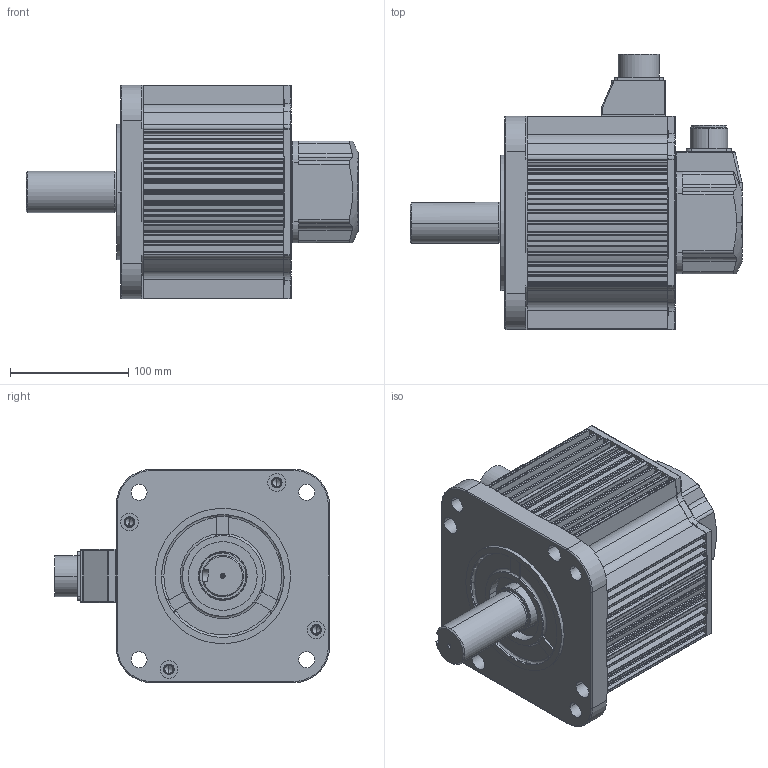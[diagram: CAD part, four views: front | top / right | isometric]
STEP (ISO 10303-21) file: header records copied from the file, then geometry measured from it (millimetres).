
FILE_DESCRIPTION (( 'STEP AP203' ), '1' );
FILE_NAME ('KANH-20B(NB).STEP', '2026-09-12T02:56:31', ( '' ), ( '' ), 'SwSTEP 2.0', 'SolidWorks 2023', '' );
FILE_SCHEMA (( 'CONFIG_CONTROL_DESIGN' ));
Length unit declared in the file: millimetre
Products named in the file (11): KANH-20B(NB); 10050907 RUBBER SEAL_MS22 or MS24; □180 FLANGE; □180-121.5mm(2.0kW,NB,MS22); 10050523 GASKET_돌출형; 10050908 CONNECTOR BOX_MS22 or MS24; 1005052200 ENCODER COVER; □180 BRACKET_BR; MS3102A 22_표준; Ø35-KEY10X50; MS3102A 20-29P
Assembly tree (10 placements, depth 2):
  KANH-20B(NB)
    Ø35-KEY10X50
    □180 FLANGE
    □180-121.5mm(2.0kW,NB,MS22)
    □180 BRACKET_BR
    1005052200 ENCODER COVER
    10050523 GASKET_돌출형
    MS3102A 20-29P
    10050907 RUBBER SEAL_MS22 or MS24
    10050908 CONNECTOR BOX_MS22 or MS24
    MS3102A 22_표준
Bounding box: 280.2 x 232.05 x 180 mm (x, y, z)
Volume: 1389410.9 mm3; surface area: 490013.3 mm2
Topology: 10 solids, 10 shells, 1764 faces, 4830 edges, 3140 vertices
Faces by surface type: cylinder 912, plane 605, torus 122, cone 88, bspline 35, sphere 2
Entity records: 60348 total; most frequent: CARTESIAN_POINT 13359, DIRECTION 10018, ORIENTED_EDGE 9588, EDGE_CURVE 4794, AXIS2_PLACEMENT_3D 3855, VERTEX_POINT 3140, LINE 2308, VECTOR 2308
